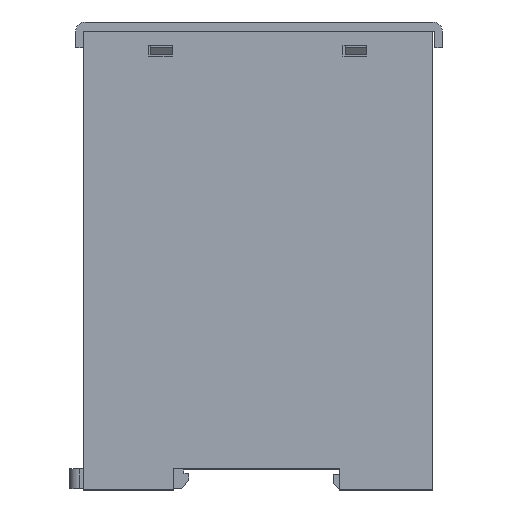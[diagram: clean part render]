
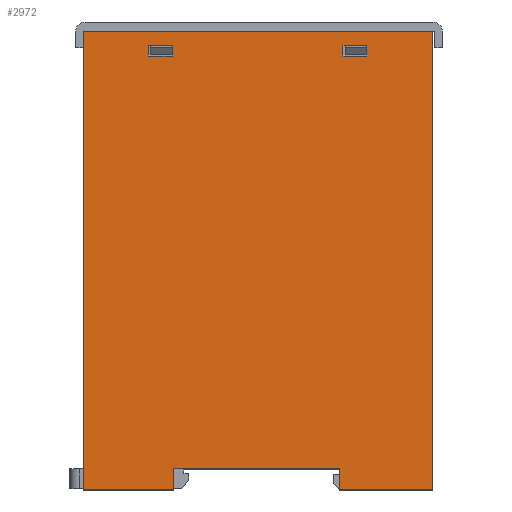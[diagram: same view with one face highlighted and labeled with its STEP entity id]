
A CAD part, top view. The second image highlights one B-rep face of the part: STEP entity #2972.
In plain terms, the highlighted planar face has unit normal (0, 0, 1) as drawn and (0, 1, 0) by its records, which use the part's own axes.
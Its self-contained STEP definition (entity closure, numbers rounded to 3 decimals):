
#13 = EDGE_CURVE ( 'NONE', #5350, #6292, #2259, .T. ) ;
#150 = LINE ( 'NONE', #4339, #10667 ) ;
#260 = VECTOR ( 'NONE', #7518, 1000. ) ;
#375 = CARTESIAN_POINT ( 'NONE',  ( 51.4, 13., -37.5 ) ) ;
#462 = LINE ( 'NONE', #10903, #11698 ) ;
#756 = DIRECTION ( 'NONE',  ( 0., 0., 1. ) ) ;
#846 = FACE_BOUND ( 'NONE', #9130, .T. ) ;
#891 = VECTOR ( 'NONE', #11867, 1000. ) ;
#928 = CARTESIAN_POINT ( 'NONE',  ( 51.4, 13., 37.5 ) ) ;
#1053 = DIRECTION ( 'NONE',  ( 0., -1., 0. ) ) ;
#1401 = DIRECTION ( 'NONE',  ( -1., 0., 0. ) ) ;
#1799 = CARTESIAN_POINT ( 'NONE',  ( -46.9, 13., -37.5 ) ) ;
#1881 = VERTEX_POINT ( 'NONE', #11419 ) ;
#1906 = DIRECTION ( 'NONE',  ( 1., 0., 0. ) ) ;
#2043 = EDGE_CURVE ( 'NONE', #11311, #4429, #150, .T. ) ;
#2128 = ORIENTED_EDGE ( 'NONE', *, *, #8945, .T. ) ;
#2247 = VERTEX_POINT ( 'NONE', #7015 ) ;
#2259 = LINE ( 'NONE', #3158, #5884 ) ;
#2508 = VERTEX_POINT ( 'NONE', #2542 ) ;
#2528 = DIRECTION ( 'NONE',  ( -1., 0., 0. ) ) ;
#2542 = CARTESIAN_POINT ( 'NONE',  ( -41.6, 13., 23.5 ) ) ;
#2575 = VERTEX_POINT ( 'NONE', #13186 ) ;
#2657 = EDGE_CURVE ( 'NONE', #2902, #1881, #10229, .T. ) ;
#2765 = ORIENTED_EDGE ( 'NONE', *, *, #2657, .T. ) ;
#2902 = VERTEX_POINT ( 'NONE', #11029 ) ;
#2972 = ADVANCED_FACE ( 'NONE', ( #13555, #846, #3189 ), #13491, .F. ) ;
#3047 = CARTESIAN_POINT ( 'NONE',  ( 0., 13., 0. ) ) ;
#3158 = CARTESIAN_POINT ( 'NONE',  ( 51.4, 13., 37.5 ) ) ;
#3163 = DIRECTION ( 'NONE',  ( 0., 0., 1. ) ) ;
#3189 = FACE_OUTER_BOUND ( 'NONE', #11089, .T. ) ;
#3240 = CARTESIAN_POINT ( 'NONE',  ( 51.4, 13., -17.5 ) ) ;
#3327 = ORIENTED_EDGE ( 'NONE', *, *, #13, .F. ) ;
#3341 = EDGE_CURVE ( 'NONE', #9702, #10337, #5008, .T. ) ;
#3452 = DIRECTION ( 'NONE',  ( 0., 0., -1. ) ) ;
#3600 = ORIENTED_EDGE ( 'NONE', *, *, #4016, .T. ) ;
#3665 = CARTESIAN_POINT ( 'NONE',  ( 51.4, 13., 18.2 ) ) ;
#3896 = CARTESIAN_POINT ( 'NONE',  ( 0., 13., 18.4 ) ) ;
#4016 = EDGE_CURVE ( 'NONE', #2508, #11311, #7762, .T. ) ;
#4048 = DIRECTION ( 'NONE',  ( -1., 0., 0. ) ) ;
#4078 = ORIENTED_EDGE ( 'NONE', *, *, #9796, .T. ) ;
#4222 = EDGE_CURVE ( 'NONE', #5350, #2575, #8361, .T. ) ;
#4339 = CARTESIAN_POINT ( 'NONE',  ( -43.9, 13., 0. ) ) ;
#4429 = VERTEX_POINT ( 'NONE', #11779 ) ;
#4459 = VECTOR ( 'NONE', #12685, 1000. ) ;
#4559 = LINE ( 'NONE', #375, #260 ) ;
#4590 = ORIENTED_EDGE ( 'NONE', *, *, #7691, .T. ) ;
#4778 = EDGE_CURVE ( 'NONE', #1881, #7940, #11931, .T. ) ;
#4860 = CARTESIAN_POINT ( 'NONE',  ( -43.9, 13., 0. ) ) ;
#4885 = VECTOR ( 'NONE', #1906, 1000. ) ;
#5008 = LINE ( 'NONE', #1799, #5923 ) ;
#5338 = ORIENTED_EDGE ( 'NONE', *, *, #2043, .T. ) ;
#5350 = VERTEX_POINT ( 'NONE', #3665 ) ;
#5610 = VERTEX_POINT ( 'NONE', #3240 ) ;
#5674 = DIRECTION ( 'NONE',  ( 0., 0., -1. ) ) ;
#5851 = ORIENTED_EDGE ( 'NONE', *, *, #6454, .F. ) ;
#5884 = VECTOR ( 'NONE', #10571, 1000. ) ;
#5891 = EDGE_CURVE ( 'NONE', #7940, #8119, #7006, .T. ) ;
#5907 = VECTOR ( 'NONE', #1401, 1000. ) ;
#5923 = VECTOR ( 'NONE', #7289, 1000. ) ;
#5980 = VECTOR ( 'NONE', #3163, 1000. ) ;
#5998 = VECTOR ( 'NONE', #6496, 1000. ) ;
#6042 = LINE ( 'NONE', #10239, #5980 ) ;
#6292 = VERTEX_POINT ( 'NONE', #928 ) ;
#6454 = EDGE_CURVE ( 'NONE', #9702, #5610, #4559, .T. ) ;
#6496 = DIRECTION ( 'NONE',  ( -1., 0., 0. ) ) ;
#6570 = AXIS2_PLACEMENT_3D ( 'NONE', #3047, #1053, #12523 ) ;
#6596 = VECTOR ( 'NONE', #4048, 1000. ) ;
#6721 = LINE ( 'NONE', #12832, #891 ) ;
#6825 = LINE ( 'NONE', #9921, #5907 ) ;
#7006 = LINE ( 'NONE', #10436, #8154 ) ;
#7015 = CARTESIAN_POINT ( 'NONE',  ( -46.9, 13., 37.5 ) ) ;
#7103 = EDGE_CURVE ( 'NONE', #10337, #2247, #6042, .T. ) ;
#7193 = LINE ( 'NONE', #3896, #4885 ) ;
#7289 = DIRECTION ( 'NONE',  ( -1., 0., 0. ) ) ;
#7317 = VECTOR ( 'NONE', #2528, 1000. ) ;
#7518 = DIRECTION ( 'NONE',  ( 0., 0., 1. ) ) ;
#7534 = DIRECTION ( 'NONE',  ( 1., 0., 0. ) ) ;
#7543 = EDGE_CURVE ( 'NONE', #4429, #9203, #7193, .T. ) ;
#7691 = EDGE_CURVE ( 'NONE', #9203, #2508, #8569, .T. ) ;
#7762 = LINE ( 'NONE', #11942, #7317 ) ;
#7785 = EDGE_CURVE ( 'NONE', #2575, #13084, #462, .T. ) ;
#7813 = CARTESIAN_POINT ( 'NONE',  ( 0., 13., -23.3 ) ) ;
#7940 = VERTEX_POINT ( 'NONE', #13413 ) ;
#8119 = VERTEX_POINT ( 'NONE', #9773 ) ;
#8154 = VECTOR ( 'NONE', #756, 1000. ) ;
#8254 = CARTESIAN_POINT ( 'NONE',  ( 46.9, 13., -17.5 ) ) ;
#8290 = EDGE_CURVE ( 'NONE', #5610, #13084, #9480, .T. ) ;
#8361 = LINE ( 'NONE', #8432, #5998 ) ;
#8409 = VECTOR ( 'NONE', #7534, 1000. ) ;
#8432 = CARTESIAN_POINT ( 'NONE',  ( 51.4, 13., 18.2 ) ) ;
#8509 = CARTESIAN_POINT ( 'NONE',  ( 51.4, 13., -37.5 ) ) ;
#8569 = LINE ( 'NONE', #9530, #4459 ) ;
#8842 = ORIENTED_EDGE ( 'NONE', *, *, #7543, .T. ) ;
#8945 = EDGE_CURVE ( 'NONE', #8119, #2902, #6825, .T. ) ;
#9130 = EDGE_LOOP ( 'NONE', ( #3600, #5338, #8842, #4590 ) ) ;
#9203 = VERTEX_POINT ( 'NONE', #11484 ) ;
#9480 = LINE ( 'NONE', #11534, #6596 ) ;
#9530 = CARTESIAN_POINT ( 'NONE',  ( -41.6, 13., 0. ) ) ;
#9702 = VERTEX_POINT ( 'NONE', #8509 ) ;
#9773 = CARTESIAN_POINT ( 'NONE',  ( -41.6, 13., -18.2 ) ) ;
#9796 = EDGE_CURVE ( 'NONE', #2247, #6292, #6721, .T. ) ;
#9865 = VECTOR ( 'NONE', #13457, 1000. ) ;
#9870 = CARTESIAN_POINT ( 'NONE',  ( -46.9, 13., -37.5 ) ) ;
#9921 = CARTESIAN_POINT ( 'NONE',  ( 0., 13., -18.2 ) ) ;
#10229 = LINE ( 'NONE', #4860, #9865 ) ;
#10239 = CARTESIAN_POINT ( 'NONE',  ( -46.9, 13., 37.5 ) ) ;
#10337 = VERTEX_POINT ( 'NONE', #9870 ) ;
#10436 = CARTESIAN_POINT ( 'NONE',  ( -41.6, 13., 0. ) ) ;
#10571 = DIRECTION ( 'NONE',  ( 0., 0., 1. ) ) ;
#10667 = VECTOR ( 'NONE', #3452, 1000. ) ;
#10903 = CARTESIAN_POINT ( 'NONE',  ( 46.9, 13., 37.5 ) ) ;
#10918 = ORIENTED_EDGE ( 'NONE', *, *, #5891, .T. ) ;
#11029 = CARTESIAN_POINT ( 'NONE',  ( -43.9, 13., -18.2 ) ) ;
#11089 = EDGE_LOOP ( 'NONE', ( #4078, #3327, #13515, #11711, #13600, #5851, #11675, #12409 ) ) ;
#11311 = VERTEX_POINT ( 'NONE', #12549 ) ;
#11419 = CARTESIAN_POINT ( 'NONE',  ( -43.9, 13., -23.3 ) ) ;
#11484 = CARTESIAN_POINT ( 'NONE',  ( -41.6, 13., 18.4 ) ) ;
#11534 = CARTESIAN_POINT ( 'NONE',  ( 51.4, 13., -17.5 ) ) ;
#11675 = ORIENTED_EDGE ( 'NONE', *, *, #3341, .T. ) ;
#11698 = VECTOR ( 'NONE', #5674, 1000. ) ;
#11711 = ORIENTED_EDGE ( 'NONE', *, *, #7785, .T. ) ;
#11779 = CARTESIAN_POINT ( 'NONE',  ( -43.9, 13., 18.4 ) ) ;
#11867 = DIRECTION ( 'NONE',  ( 1., 0., 0. ) ) ;
#11931 = LINE ( 'NONE', #7813, #8409 ) ;
#11942 = CARTESIAN_POINT ( 'NONE',  ( 0., 13., 23.5 ) ) ;
#12188 = ORIENTED_EDGE ( 'NONE', *, *, #4778, .T. ) ;
#12409 = ORIENTED_EDGE ( 'NONE', *, *, #7103, .T. ) ;
#12523 = DIRECTION ( 'NONE',  ( 0., 0., -1. ) ) ;
#12539 = EDGE_LOOP ( 'NONE', ( #2128, #2765, #12188, #10918 ) ) ;
#12549 = CARTESIAN_POINT ( 'NONE',  ( -43.9, 13., 23.5 ) ) ;
#12685 = DIRECTION ( 'NONE',  ( 0., 0., 1. ) ) ;
#12832 = CARTESIAN_POINT ( 'NONE',  ( -46.9, 13., 37.5 ) ) ;
#13084 = VERTEX_POINT ( 'NONE', #8254 ) ;
#13186 = CARTESIAN_POINT ( 'NONE',  ( 46.9, 13., 18.2 ) ) ;
#13413 = CARTESIAN_POINT ( 'NONE',  ( -41.6, 13., -23.3 ) ) ;
#13457 = DIRECTION ( 'NONE',  ( 0., 0., -1. ) ) ;
#13491 = PLANE ( 'NONE',  #6570 ) ;
#13515 = ORIENTED_EDGE ( 'NONE', *, *, #4222, .T. ) ;
#13555 = FACE_BOUND ( 'NONE', #12539, .T. ) ;
#13600 = ORIENTED_EDGE ( 'NONE', *, *, #8290, .F. ) ;
